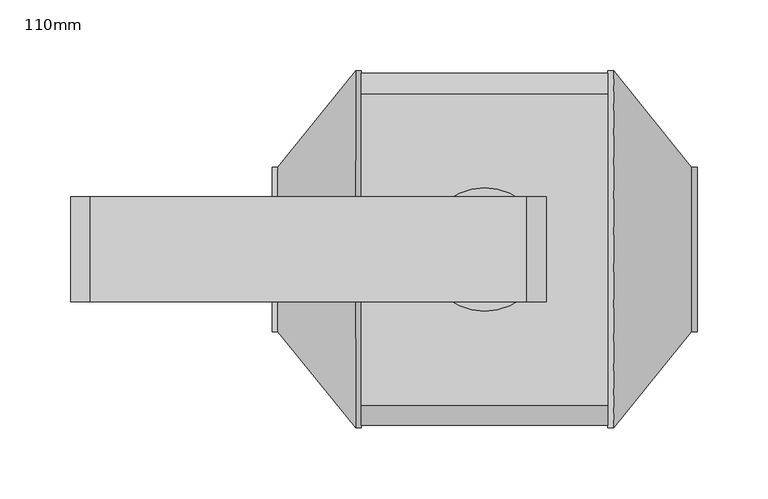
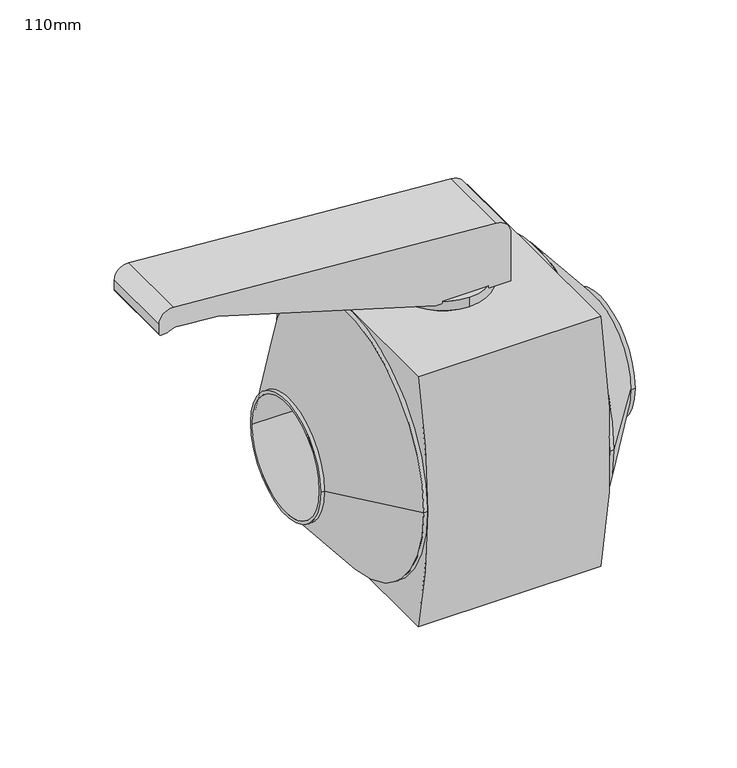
"""IFC4 building model written with IfcOpenShell, lengths in millimetres: pipe fitting geometry, PipeAccessory_HTA_CPVC_BallValves_(75-110) : 110mm."""

from ifc_helpers import new_model, si_unit, point, frame, frame_2d, origin, place, context, project, spatial, polyline, circle_curve, trimmed, segment, composite_curve, outline, extrude, source, transform, mapped, element, save
from ifc_brep_helpers import plane_surface, cylinder_surface, revolved_surface, advanced_brep


def pipe_fitting_110mm_c44a19dd(model_context):
    return source(origin(), model_context, "Body", "SolidModel", [
        extrude(outline(composite_curve([segment(polyline([(132.769971, 43.5), (181.0385704, 43.5)]), True, "CONTINUOUS"), segment(trimmed(circle_curve(frame_2d((181.0385704, 28.5)), 15.0), [point((181.0385704, 43.5))], [point((196.0000408, 29.5744323))], False, "CARTESIAN"), True, "CONTINUOUS"), segment(polyline([(196.0000408, 29.5744323), (219.0137159, -278.2659945)]), True, "CONTINUOUS"), segment(trimmed(circle_curve(frame_2d((206.2306259, -279.1839902)), 12.8160098), [point((219.0137159, -278.2659945))], [point((206.2306259, -292.0))], False, "CARTESIAN"), True, "CONTINUOUS"), segment(polyline([(206.2306259, -292.0), (196.508446, -292.0)]), True, "CONTINUOUS"), segment(trimmed(circle_curve(frame_2d((196.508446, -290.491554)), 1.508446), [point((196.508446, -292.0))], [point((195.0, -290.491554))], False, "CARTESIAN"), True, "CONTINUOUS"), segment(polyline([(195.0, -290.491554), (195.0, -286.7032744)]), True, "CONTINUOUS"), segment(trimmed(circle_curve(frame_2d((202.9869467, -286.7032744)), 7.9869467), [point((195.0, -286.7032744))], [point((195.7483147, -283.3278449))], False, "CARTESIAN"), True, "CONTINUOUS"), segment(polyline([(195.7483147, -283.3278449), (197.3708994, -279.8482009)]), True, "CONTINUOUS"), segment(trimmed(circle_curve(frame_2d((186.9196901, -274.974722)), 11.5316335), [point((197.3708994, -279.8482009))], [point((198.4052437, -273.9448526))], True, "CARTESIAN"), True, "CONTINUOUS"), segment(polyline([(198.4052437, -273.9448526), (195.0, -235.9680892), (132.769971, -27.947273), (132.769971, 43.5)]), True, "CONTINUOUS")], self_intersect=False)), frame((0.0, -37.0, 0.0), z_axis=(0.0, 1.0, 0.0), x_axis=(0.0, 0.0, 1.0)), (0.0, 0.0, 1.0), 74.0),
        advanced_brep(
        [(-87.0, 110.0, 126.0), (-87.0, 126.0, 0.0), (-87.0, 0.0, 126.0), (-87.0, 110.0, -126.0), (-87.0, 0.0, -126.0), (-87.0, -110.0, -126.0), (-87.0, -126.0, 0.0), (-87.0, -110.0, 126.0), (87.0, 110.0, 126.0), (87.0, 0.0, 126.0), (87.0, 126.0, 0.0), (87.0, -110.0, 126.0), (87.0, -126.0, 0.0), (87.0, -110.0, -126.0), (87.0, 0.0, -126.0), (87.0, 110.0, -126.0), (0.0, -43.5, 126.0), (0.0, 43.5, 126.0), (-91.0, -126.0, 0.0), (-91.0, 126.0, 0.0), (91.0, -126.0, 0.0), (91.0, 126.0, 0.0), (146.0, 58.0, 0.0), (146.0, -58.0, 0.0), (150.0, -58.0, 0.0), (150.0, 58.0, 0.0), (150.0, 55.0, 0.0), (150.0, -55.0, 0.0), (0.0, 43.5, 135.5), (0.0, -43.5, 135.5), (-146.0, 58.0, 0.0), (-146.0, -58.0, 0.0), (-150.0, 58.0, 0.0), (-150.0, -58.0, 0.0), (-150.0, -55.0, 0.0), (-150.0, 55.0, 0.0), (87.0, 55.0, 0.0), (87.0, -55.0, 0.0), (-87.0, 55.0, 0.0), (-87.0, -55.0, 0.0)],
        [
            (0, 1, circle_curve(frame((-87.0, -378.125, 0.0), z_axis=(-1.0, 0.0, 0.0), x_axis=(0.0, 1.0, 0.0)), 504.125)),
            (1, 2, circle_curve(frame((-87.0, 0.0, 0.0), z_axis=(1.0, 0.0, 0.0), x_axis=(0.0, 1.0, 0.0)), 126.0)),
            (2, 0),
            (1, 3, circle_curve(frame((-87.0, -378.125, 0.0), z_axis=(-1.0, 0.0, 0.0), x_axis=(0.0, 1.0, 0.0)), 504.125)),
            (3, 4),
            (4, 1, circle_curve(frame((-87.0, 0.0, 0.0), z_axis=(1.0, 0.0, 0.0), x_axis=(0.0, 1.0, 0.0)), 126.0)),
            (4, 5),
            (5, 6, circle_curve(frame((-87.0, 378.125, 0.0), z_axis=(-1.0, 0.0, 0.0), x_axis=(0.0, 1.0, 0.0)), 504.125)),
            (6, 4, circle_curve(frame((-87.0, 0.0, 0.0), z_axis=(1.0, 0.0, 0.0), x_axis=(0.0, 1.0, 0.0)), 126.0)),
            (6, 7, circle_curve(frame((-87.0, 378.125, 0.0), z_axis=(-1.0, 0.0, 0.0), x_axis=(0.0, 1.0, 0.0)), 504.125)),
            (7, 2),
            (2, 6, circle_curve(frame((-87.0, 0.0, 0.0), z_axis=(1.0, 0.0, 0.0), x_axis=(0.0, 1.0, 0.0)), 126.0)),
            (8, 9),
            (9, 10, circle_curve(frame((87.0, 0.0, 0.0), z_axis=(-1.0, 0.0, 0.0), x_axis=(0.0, -1.0, 0.0)), 126.0)),
            (10, 8, circle_curve(frame((87.0, -378.125, 0.0), z_axis=(1.0, 0.0, 0.0), x_axis=(0.0, 1.0, 0.0)), 504.125)),
            (9, 11),
            (11, 12, circle_curve(frame((87.0, 378.125, 0.0), z_axis=(1.0, 0.0, 0.0), x_axis=(0.0, 1.0, 0.0)), 504.125)),
            (12, 9, circle_curve(frame((87.0, 0.0, 0.0), z_axis=(-1.0, 0.0, 0.0), x_axis=(0.0, -1.0, 0.0)), 126.0)),
            (12, 13, circle_curve(frame((87.0, 378.125, 0.0), z_axis=(1.0, 0.0, 0.0), x_axis=(0.0, 1.0, 0.0)), 504.125)),
            (13, 14),
            (14, 12, circle_curve(frame((87.0, 0.0, 0.0), z_axis=(-1.0, 0.0, 0.0), x_axis=(0.0, -1.0, 0.0)), 126.0)),
            (14, 15),
            (15, 10, circle_curve(frame((87.0, -378.125, 0.0), z_axis=(1.0, 0.0, 0.0), x_axis=(0.0, 1.0, 0.0)), 504.125)),
            (10, 14, circle_curve(frame((87.0, 0.0, 0.0), z_axis=(-1.0, 0.0, 0.0), x_axis=(0.0, -1.0, 0.0)), 126.0)),
            (3, 15),
            (13, 5),
            (7, 11),
            (8, 0),
            (16, 17, circle_curve(frame((0.0, 0.0, 126.0), z_axis=(0.0, 0.0, -1.0), x_axis=(0.0, -1.0, 0.0)), 43.5)),
            (17, 16, circle_curve(frame((0.0, 0.0, 126.0), z_axis=(0.0, 0.0, -1.0), x_axis=(0.0, -1.0, 0.0)), 43.5)),
            (18, 6),
            (1, 19),
            (19, 18, circle_curve(frame((-91.0, 0.0, 0.0), z_axis=(1.0, 0.0, 0.0), x_axis=(0.0, 1.0, 0.0)), 126.0)),
            (18, 19, circle_curve(frame((-91.0, 0.0, 0.0), z_axis=(1.0, 0.0, 0.0), x_axis=(0.0, 1.0, 0.0)), 126.0)),
            (20, 12),
            (10, 21),
            (21, 20, circle_curve(frame((91.0, 0.0, 0.0), z_axis=(-1.0, 0.0, 0.0), x_axis=(0.0, -1.0, 0.0)), 126.0)),
            (20, 21, circle_curve(frame((91.0, 0.0, 0.0), z_axis=(-1.0, 0.0, 0.0), x_axis=(0.0, -1.0, 0.0)), 126.0)),
            (21, 22),
            (22, 23, circle_curve(frame((146.0, 0.0, 0.0), z_axis=(-1.0, 0.0, 0.0), x_axis=(0.0, -1.0, 0.0)), 58.0)),
            (23, 20),
            (23, 22, circle_curve(frame((146.0, 0.0, 0.0), z_axis=(-1.0, 0.0, 0.0), x_axis=(0.0, 1.0, 0.0)), 58.0)),
            (24, 25, circle_curve(frame((150.0, 0.0, 0.0), z_axis=(1.0, 0.0, 0.0), x_axis=(0.0, 1.0, 0.0)), 58.0)),
            (25, 24, circle_curve(frame((150.0, 0.0, 0.0), z_axis=(1.0, 0.0, 0.0), x_axis=(0.0, 1.0, 0.0)), 58.0)),
            (26, 27, circle_curve(frame((150.0, 0.0, 0.0), z_axis=(-1.0, 0.0, 0.0), x_axis=(0.0, -1.0, 0.0)), 55.0)),
            (27, 26, circle_curve(frame((150.0, 0.0, 0.0), z_axis=(-1.0, 0.0, 0.0), x_axis=(0.0, -1.0, 0.0)), 55.0)),
            (25, 22),
            (23, 24),
            (28, 29, circle_curve(frame((0.0, 0.0, 135.5), z_axis=(0.0, 0.0, 1.0), x_axis=(0.0, -1.0, 0.0)), 43.5)),
            (29, 28, circle_curve(frame((0.0, 0.0, 135.5), z_axis=(0.0, 0.0, 1.0), x_axis=(0.0, -1.0, 0.0)), 43.5)),
            (28, 17),
            (16, 29),
            (19, 30),
            (30, 31, circle_curve(frame((-146.0, 0.0, 0.0), z_axis=(1.0, 0.0, 0.0), x_axis=(0.0, -1.0, 0.0)), 58.0)),
            (31, 18),
            (31, 30, circle_curve(frame((-146.0, 0.0, 0.0), z_axis=(1.0, 0.0, 0.0), x_axis=(0.0, 1.0, 0.0)), 58.0)),
            (32, 33, circle_curve(frame((-150.0, 0.0, 0.0), z_axis=(-1.0, 0.0, 0.0), x_axis=(0.0, -1.0, 0.0)), 58.0)),
            (33, 32, circle_curve(frame((-150.0, 0.0, 0.0), z_axis=(-1.0, 0.0, 0.0), x_axis=(0.0, -1.0, 0.0)), 58.0)),
            (34, 35, circle_curve(frame((-150.0, 0.0, 0.0), z_axis=(1.0, 0.0, 0.0), x_axis=(0.0, -1.0, 0.0)), 55.0)),
            (35, 34, circle_curve(frame((-150.0, 0.0, 0.0), z_axis=(1.0, 0.0, 0.0), x_axis=(0.0, -1.0, 0.0)), 55.0)),
            (32, 30),
            (31, 33),
            (36, 37, circle_curve(frame((87.0, 0.0, 0.0), z_axis=(1.0, 0.0, 0.0), x_axis=(0.0, -1.0, 0.0)), 55.0)),
            (37, 36, circle_curve(frame((87.0, 0.0, 0.0), z_axis=(1.0, 0.0, 0.0), x_axis=(0.0, -1.0, 0.0)), 55.0)),
            (37, 27),
            (26, 36),
            (38, 39, circle_curve(frame((-87.0, 0.0, 0.0), z_axis=(-1.0, 0.0, 0.0), x_axis=(0.0, -1.0, 0.0)), 55.0)),
            (39, 38, circle_curve(frame((-87.0, 0.0, 0.0), z_axis=(-1.0, 0.0, 0.0), x_axis=(0.0, -1.0, 0.0)), 55.0)),
            (38, 35),
            (34, 39),
        ],
        [
            plane_surface(frame((-87.0, 0.0, 0.0), z_axis=(-1.0, 0.0, 0.0), x_axis=(0.0, 0.0, 1.0))),
            plane_surface(frame((87.0, 0.0, 0.0), z_axis=(1.0, 0.0, 0.0), x_axis=(0.0, 0.0, 1.0))),
            plane_surface(frame((-87.0, 110.0, -126.0), z_axis=(0.0, 0.0, -1.0), x_axis=(1.0, 0.0, 0.0))),
            plane_surface(frame((-87.0, -110.0, 126.0), z_axis=(0.0, 0.0, 1.0), x_axis=(1.0, 0.0, 0.0))),
            cylinder_surface(frame((-87.0, -378.125, 0.0), z_axis=(-1.0, 0.0, 0.0), x_axis=(0.0, 1.0, 0.0)), 504.125),
            cylinder_surface(frame((-87.0, 378.125, 0.0), z_axis=(-1.0, 0.0, 0.0), x_axis=(0.0, 1.0, 0.0)), 504.125),
            cylinder_surface(frame((-91.0, 0.0, 0.0), z_axis=(-1.0, 0.0, 0.0), x_axis=(0.0, 1.0, 0.0)), 126.0),
            cylinder_surface(frame((91.0, 0.0, 0.0), z_axis=(1.0, 0.0, 0.0), x_axis=(0.0, -1.0, 0.0)), 126.0),
            revolved_surface(polyline([(146.0, 57.99999999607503, 0.0), (91.0, 126.0, 0.0)]), (192.9117647, 0.0, 0.0), (-1.0, 0.0, 0.0)),
            plane_surface(frame((150.0, 0.0, 0.0), z_axis=(1.0, 0.0, 0.0), x_axis=(0.0, 0.0, 1.0))),
            cylinder_surface(frame((146.0, 0.0, 0.0), z_axis=(-1.0, 0.0, 0.0), x_axis=(0.0, 1.0, 0.0)), 58.0),
            plane_surface(frame((0.0, 0.0, 135.5), z_axis=(0.0, 0.0, 1.0), x_axis=(0.0, -1.0, 0.0))),
            cylinder_surface(frame((0.0, 0.0, 135.5), z_axis=(0.0, 0.0, 1.0), x_axis=(0.0, -1.0, 0.0)), 43.5),
            revolved_surface(polyline([(-146.0, 57.99999999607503, 0.0), (-91.0, 126.0, 0.0)]), (-192.9117647, 0.0, 0.0), (1.0, 0.0, 0.0)),
            plane_surface(frame((-150.0, 0.0, 0.0), z_axis=(-1.0, 0.0, 0.0), x_axis=(0.0, 0.0, 1.0))),
            cylinder_surface(frame((-146.0, 0.0, 0.0), z_axis=(1.0, 0.0, 0.0), x_axis=(0.0, -1.0, 0.0)), 58.0),
            plane_surface(frame((87.0, -55.0, 0.0), z_axis=(1.0, 0.0, 0.0), x_axis=(0.0, 0.0, 1.0))),
            revolved_surface(polyline([(87.0, -55.0, 0.0), (150.0, -55.0, 0.0)]), (150.0, 0.0, 0.0), (-1.0, 0.0, 0.0)),
            plane_surface(frame((-87.0, -55.0, 0.0), z_axis=(-1.0, 0.0, 0.0), x_axis=(0.0, 0.0, -1.0))),
            revolved_surface(polyline([(-150.0, -55.0, 0.0), (-87.0, -55.0, 0.0)]), (-87.0, 0.0, 0.0), (-1.0, 0.0, 0.0)),
        ],
        [
            (0, [[1, 2, 3]]),
            (0, [[4, 5, 6]]),
            (0, [[7, 8, 9]]),
            (0, [[10, 11, 12]]),
            (1, [[13, 14, 15]]),
            (1, [[16, 17, 18]]),
            (1, [[19, 20, 21]]),
            (1, [[22, 23, 24]]),
            (2, [[25, -22, -20, 26, -7, -5]]),
            (3, [[27, -16, -13, 28, -3, -11], [29, 30]]),
            (4, [[-25, -4, -1, -28, -15, -23]]),
            (5, [[-26, -19, -17, -27, -10, -8]]),
            (6, [[31, -12, -2, 32, 33]]),
            (6, [[-31, 34, -32, -6, -9]]),
            (7, [[35, -21, -24, 36, 37]]),
            (7, [[-35, 38, -36, -14, -18]]),
            (8, [[39, 40, 41, -37]]),
            (8, [[-39, -38, -41, 42]]),
            (9, [[43, 44], [45, 46]]),
            (10, [[-44, 47, -42, 48]]),
            (10, [[-43, -48, -40, -47]]),
            (11, [[49, 50]]),
            (12, [[-49, 51, -29, 52]]),
            (12, [[-50, -52, -30, -51]]),
            (13, [[53, 54, 55, -33]]),
            (13, [[-53, -34, -55, 56]]),
            (14, [[57, 58], [59, 60]]),
            (15, [[-57, 61, -56, 62]]),
            (15, [[-58, -62, -54, -61]]),
            (16, [[63, 64]]),
            (17, [[-64, 65, -45, 66]]),
            (17, [[-63, -66, -46, -65]]),
            (18, [[67, 68]]),
            (19, [[-67, 69, -59, 70]]),
            (19, [[-68, -70, -60, -69]]),
        ],
    ),
    ])


if __name__ == "__main__":
    model = new_model("IFC4")
    model_context = context("Model", 3, world=origin())
    ifc_project = project(units=[si_unit("LENGTHUNIT", "METRE", prefix="MILLI")], contexts=[model_context])
    site = spatial("IfcSite", under=ifc_project)
    building = spatial("IfcBuilding", under=site)
    placement = place(None, origin())
    pipe_fitting_110mm_shape = pipe_fitting_110mm_c44a19dd(model_context)
    element("IfcPipeFitting", 1, ObjectType="PipeAccessory_HTA_CPVC_BallValves_(75-110) : 110mm", at=placement, inside=building, context=model_context, shape_type="MappedRepresentation", body=[
        mapped(pipe_fitting_110mm_shape, transform((0.0, 0.0, 0.0), x_axis=(1.0, 0.0, 0.0), y_axis=(0.0, 1.0, 0.0), z_axis=(0.0, 0.0, 1.0))),
    ])
    save(model, "model.ifc")
